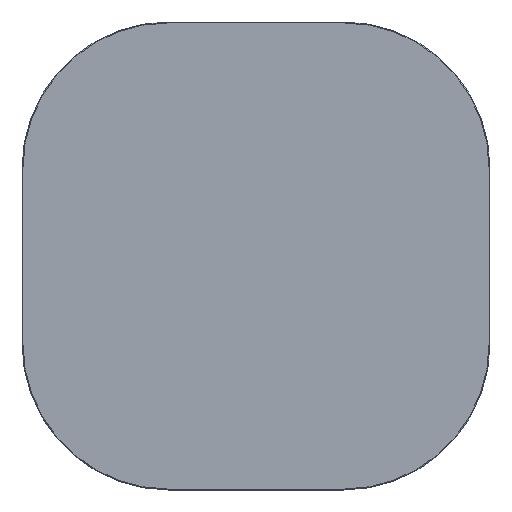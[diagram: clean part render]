
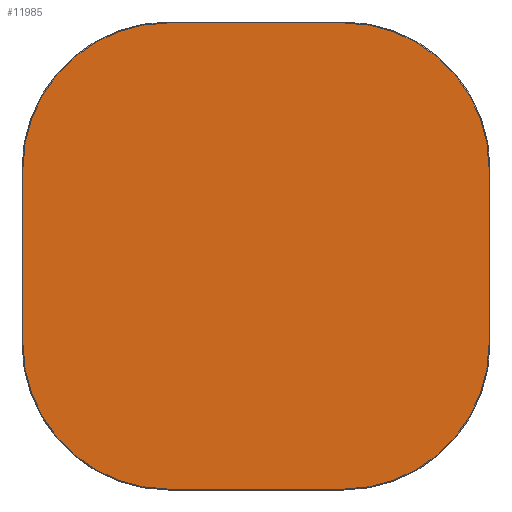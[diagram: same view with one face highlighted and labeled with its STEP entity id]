
A CAD part, top view. The second image highlights one B-rep face of the part: STEP entity #11985.
In plain terms, the highlighted planar face has unit normal (0, 0, 1).
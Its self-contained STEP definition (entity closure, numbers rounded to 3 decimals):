
#11910=CARTESIAN_POINT('',(0.,0.,20.));
#11911=DIRECTION('',(1.,0.,0.));
#11912=DIRECTION('',(0.,0.,1.));
#11913=AXIS2_PLACEMENT_3D('',#11910,#11912,#11911);
#11914=PLANE('',#11913);
#11915=CARTESIAN_POINT('',(-150.,-398.5,20.));
#11916=VERTEX_POINT('',#11915);
#11917=CARTESIAN_POINT('',(150.,-398.5,20.));
#11918=VERTEX_POINT('',#11917);
#11919=CARTESIAN_POINT('',(-150.,-398.5,20.));
#11920=DIRECTION('',(1.,0.,0.));
#11921=VECTOR('',#11920,300.);
#11922=LINE('',#11919,#11921);
#11923=EDGE_CURVE('',#11916,#11918,#11922,.T.);
#11924=ORIENTED_EDGE('E105',*,*,#11923,.T.);
#11925=CARTESIAN_POINT('',(398.5,-150.,20.));
#11926=VERTEX_POINT('',#11925);
#11927=CARTESIAN_POINT('',(150.,-150.,20.));
#11928=DIRECTION('',(0.,-1.,0.));
#11929=DIRECTION('',(0.,0.,1.));
#11930=AXIS2_PLACEMENT_3D('',#11927,#11929,#11928);
#11931=CIRCLE('',#11930,248.5);
#11932=EDGE_CURVE('',#11918,#11926,#11931,.T.);
#11933=ORIENTED_EDGE('E107',*,*,#11932,.T.);
#11934=CARTESIAN_POINT('',(398.5,150.,20.));
#11935=VERTEX_POINT('',#11934);
#11936=CARTESIAN_POINT('',(398.5,-150.,20.));
#11937=DIRECTION('',(0.,1.,0.));
#11938=VECTOR('',#11937,300.);
#11939=LINE('',#11936,#11938);
#11940=EDGE_CURVE('',#11926,#11935,#11939,.T.);
#11941=ORIENTED_EDGE('E109',*,*,#11940,.T.);
#11942=CARTESIAN_POINT('',(150.,398.5,20.));
#11943=VERTEX_POINT('',#11942);
#11944=CARTESIAN_POINT('',(150.,150.,20.));
#11945=DIRECTION('',(1.,0.,0.));
#11946=DIRECTION('',(0.,0.,1.));
#11947=AXIS2_PLACEMENT_3D('',#11944,#11946,#11945);
#11948=CIRCLE('',#11947,248.5);
#11949=EDGE_CURVE('',#11935,#11943,#11948,.T.);
#11950=ORIENTED_EDGE('E111',*,*,#11949,.T.);
#11951=CARTESIAN_POINT('',(-150.,398.5,20.));
#11952=VERTEX_POINT('',#11951);
#11953=CARTESIAN_POINT('',(150.,398.5,20.));
#11954=DIRECTION('',(-1.,0.,0.));
#11955=VECTOR('',#11954,300.);
#11956=LINE('',#11953,#11955);
#11957=EDGE_CURVE('',#11943,#11952,#11956,.T.);
#11958=ORIENTED_EDGE('E113',*,*,#11957,.T.);
#11959=CARTESIAN_POINT('',(-398.5,150.,20.));
#11960=VERTEX_POINT('',#11959);
#11961=CARTESIAN_POINT('',(-150.,150.,20.));
#11962=DIRECTION('',(0.,1.,0.));
#11963=DIRECTION('',(0.,0.,1.));
#11964=AXIS2_PLACEMENT_3D('',#11961,#11963,#11962);
#11965=CIRCLE('',#11964,248.5);
#11966=EDGE_CURVE('',#11952,#11960,#11965,.T.);
#11967=ORIENTED_EDGE('E115',*,*,#11966,.T.);
#11968=CARTESIAN_POINT('',(-398.5,-150.,20.));
#11969=VERTEX_POINT('',#11968);
#11970=CARTESIAN_POINT('',(-398.5,150.,20.));
#11971=DIRECTION('',(0.,-1.,0.));
#11972=VECTOR('',#11971,300.);
#11973=LINE('',#11970,#11972);
#11974=EDGE_CURVE('',#11960,#11969,#11973,.T.);
#11975=ORIENTED_EDGE('E117',*,*,#11974,.T.);
#11976=CARTESIAN_POINT('',(-150.,-150.,20.));
#11977=DIRECTION('',(-1.,0.,0.));
#11978=DIRECTION('',(-0.,0.,1.));
#11979=AXIS2_PLACEMENT_3D('',#11976,#11978,#11977);
#11980=CIRCLE('',#11979,248.5);
#11981=EDGE_CURVE('',#11969,#11916,#11980,.T.);
#11982=ORIENTED_EDGE('E119',*,*,#11981,.T.);
#11983=EDGE_LOOP('',(#11924,#11933,#11941,#11950,#11958,#11967,#11975,#11982));
#11984=FACE_OUTER_BOUND('',#11983,.T.);
#11985=ADVANCED_FACE('F2',(#11984),#11914,.T.);
